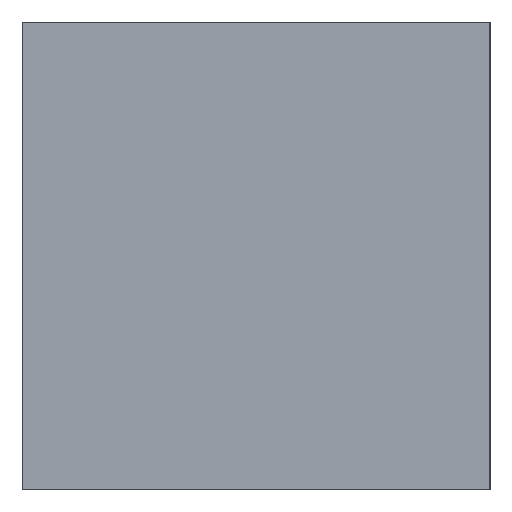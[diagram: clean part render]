
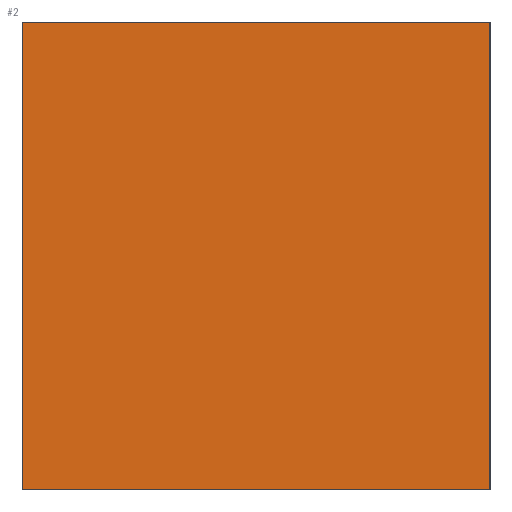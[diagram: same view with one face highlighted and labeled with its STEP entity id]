
A CAD part, left-side view. The second image highlights one B-rep face of the part: STEP entity #2.
In plain terms, the highlighted planar face has unit normal (-1, 0, 0).
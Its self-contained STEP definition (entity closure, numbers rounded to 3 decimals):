
#2 = ADVANCED_FACE ( 'NONE', ( #105 ), #54, .F. ) ;
#7 = CARTESIAN_POINT ( 'NONE',  ( -357.25, -3., 3. ) ) ;
#8 = VECTOR ( 'NONE', #39, 1000. ) ;
#21 = CARTESIAN_POINT ( 'NONE',  ( -357.25, 3., 3. ) ) ;
#22 = CARTESIAN_POINT ( 'NONE',  ( -357.25, 3., -3. ) ) ;
#26 = CARTESIAN_POINT ( 'NONE',  ( -357.25, 3., 3. ) ) ;
#33 = DIRECTION ( 'NONE',  ( 0., 1., 0. ) ) ;
#36 = DIRECTION ( 'NONE',  ( 0., -1., 0. ) ) ;
#39 = DIRECTION ( 'NONE',  ( 0., 0., 1. ) ) ;
#54 = PLANE ( 'NONE',  #183 ) ;
#58 = VERTEX_POINT ( 'NONE', #167 ) ;
#68 = VERTEX_POINT ( 'NONE', #143 ) ;
#70 = VERTEX_POINT ( 'NONE', #92 ) ;
#71 = VERTEX_POINT ( 'NONE', #166 ) ;
#76 = DIRECTION ( 'NONE',  ( 0., 0., -1. ) ) ;
#77 = DIRECTION ( 'NONE',  ( 1., 0., 0. ) ) ;
#79 = CARTESIAN_POINT ( 'NONE',  ( -357.25, -3., -3. ) ) ;
#86 = LINE ( 'NONE', #21, #8 ) ;
#92 = CARTESIAN_POINT ( 'NONE',  ( -357.25, -3., -3. ) ) ;
#105 = FACE_OUTER_BOUND ( 'NONE', #137, .T. ) ;
#113 = ORIENTED_EDGE ( 'NONE', *, *, #195, .F. ) ;
#114 = ORIENTED_EDGE ( 'NONE', *, *, #196, .F. ) ;
#117 = ORIENTED_EDGE ( 'NONE', *, *, #193, .F. ) ;
#125 = ORIENTED_EDGE ( 'NONE', *, *, #180, .F. ) ;
#137 = EDGE_LOOP ( 'NONE', ( #117, #125, #113, #114 ) ) ;
#140 = VECTOR ( 'NONE', #33, 1000. ) ;
#141 = LINE ( 'NONE', #22, #140 ) ;
#143 = CARTESIAN_POINT ( 'NONE',  ( -357.25, 3., 3. ) ) ;
#146 = DIRECTION ( 'NONE',  ( 0., 0., -1. ) ) ;
#166 = CARTESIAN_POINT ( 'NONE',  ( -357.25, -3., 3. ) ) ;
#167 = CARTESIAN_POINT ( 'NONE',  ( -357.25, 3., -3. ) ) ;
#180 = EDGE_CURVE ( 'NONE', #71, #70, #200, .T. ) ;
#183 = AXIS2_PLACEMENT_3D ( 'NONE', #79, #77, #76 ) ;
#188 = LINE ( 'NONE', #26, #202 ) ;
#193 = EDGE_CURVE ( 'NONE', #70, #58, #141, .T. ) ;
#195 = EDGE_CURVE ( 'NONE', #68, #71, #188, .T. ) ;
#196 = EDGE_CURVE ( 'NONE', #58, #68, #86, .T. ) ;
#199 = VECTOR ( 'NONE', #146, 1000. ) ;
#200 = LINE ( 'NONE', #7, #199 ) ;
#202 = VECTOR ( 'NONE', #36, 1000. ) ;
